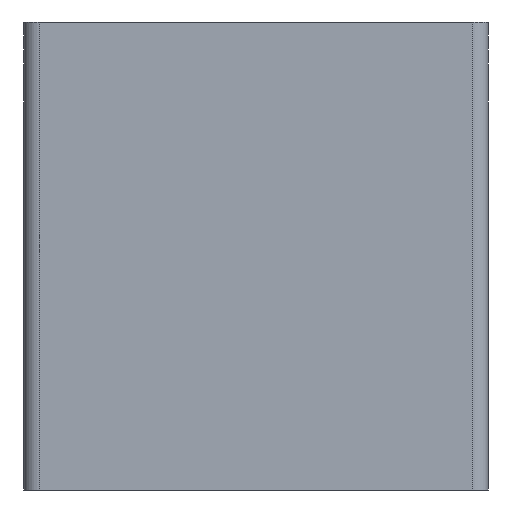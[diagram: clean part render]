
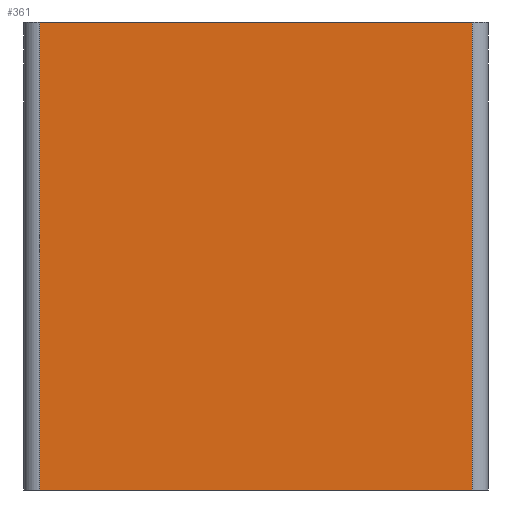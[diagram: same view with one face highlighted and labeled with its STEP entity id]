
A CAD part, left-side view. The second image highlights one B-rep face of the part: STEP entity #361.
In plain terms, the highlighted planar face has unit normal (-1, 0, 0).
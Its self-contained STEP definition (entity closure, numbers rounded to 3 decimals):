
#1 = CARTESIAN_POINT ( 'NONE',  ( -9.5, 9.5, 0. ) ) ;
#21 = VECTOR ( 'NONE', #242, 1000. ) ;
#30 = DIRECTION ( 'NONE',  ( 0., 0., 1. ) ) ;
#48 = ORIENTED_EDGE ( 'NONE', *, *, #515, .T. ) ;
#58 = ORIENTED_EDGE ( 'NONE', *, *, #489, .T. ) ;
#62 = LINE ( 'NONE', #1, #21 ) ;
#102 = CARTESIAN_POINT ( 'NONE',  ( -9.5, -4.4, 14.5 ) ) ;
#105 = VERTEX_POINT ( 'NONE', #421 ) ;
#162 = VERTEX_POINT ( 'NONE', #723 ) ;
#207 = DIRECTION ( 'NONE',  ( 0., -1., 0. ) ) ;
#242 = DIRECTION ( 'NONE',  ( 0., 0., -1. ) ) ;
#248 = VECTOR ( 'NONE', #648, 1000. ) ;
#278 = DIRECTION ( 'NONE',  ( 1., 0., 0. ) ) ;
#282 = VECTOR ( 'NONE', #30, 1000. ) ;
#326 = CARTESIAN_POINT ( 'NONE',  ( -9.5, -4.4, 14.5 ) ) ;
#332 = VERTEX_POINT ( 'NONE', #683 ) ;
#334 = FACE_OUTER_BOUND ( 'NONE', #589, .T. ) ;
#361 = ADVANCED_FACE ( 'NONE', ( #334 ), #504, .F. ) ;
#384 = DIRECTION ( 'NONE',  ( 0., 0., -1. ) ) ;
#404 = CARTESIAN_POINT ( 'NONE',  ( -9.5, -4.4, 0. ) ) ;
#421 = CARTESIAN_POINT ( 'NONE',  ( -9.5, 9.5, 14.5 ) ) ;
#489 = EDGE_CURVE ( 'NONE', #105, #332, #62, .T. ) ;
#497 = LINE ( 'NONE', #102, #618 ) ;
#504 = PLANE ( 'NONE',  #698 ) ;
#515 = EDGE_CURVE ( 'NONE', #332, #581, #645, .T. ) ;
#516 = LINE ( 'NONE', #758, #282 ) ;
#581 = VERTEX_POINT ( 'NONE', #738 ) ;
#589 = EDGE_LOOP ( 'NONE', ( #745, #58, #48, #695 ) ) ;
#592 = EDGE_CURVE ( 'NONE', #105, #162, #497, .T. ) ;
#604 = EDGE_CURVE ( 'NONE', #581, #162, #516, .T. ) ;
#618 = VECTOR ( 'NONE', #207, 1000. ) ;
#645 = LINE ( 'NONE', #404, #248 ) ;
#648 = DIRECTION ( 'NONE',  ( 0., -1., 0. ) ) ;
#683 = CARTESIAN_POINT ( 'NONE',  ( -9.5, 9.5, 0. ) ) ;
#695 = ORIENTED_EDGE ( 'NONE', *, *, #604, .T. ) ;
#698 = AXIS2_PLACEMENT_3D ( 'NONE', #326, #278, #384 ) ;
#723 = CARTESIAN_POINT ( 'NONE',  ( -9.5, -3.9, 14.5 ) ) ;
#738 = CARTESIAN_POINT ( 'NONE',  ( -9.5, -3.9, 0. ) ) ;
#745 = ORIENTED_EDGE ( 'NONE', *, *, #592, .F. ) ;
#758 = CARTESIAN_POINT ( 'NONE',  ( -9.5, -3.9, 14.5 ) ) ;
